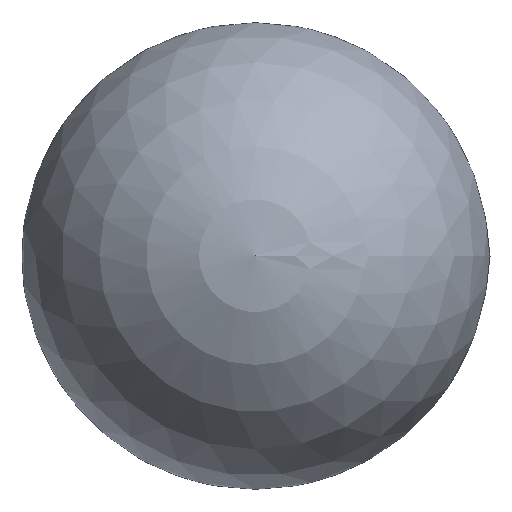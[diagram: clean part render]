
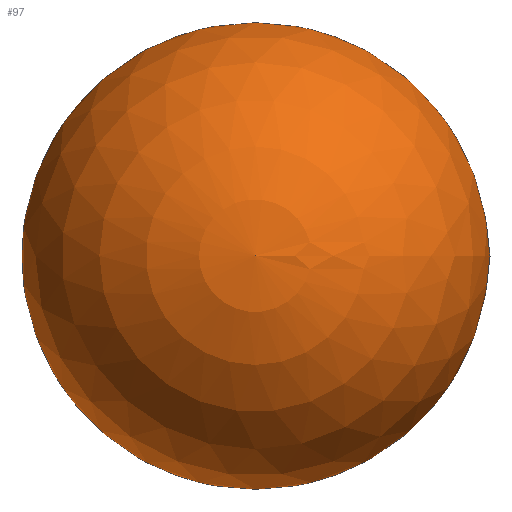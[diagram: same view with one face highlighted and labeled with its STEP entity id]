
A CAD part, top view. The second image highlights one B-rep face of the part: STEP entity #97.
In plain terms, the highlighted spherical face has radius 17 mm.
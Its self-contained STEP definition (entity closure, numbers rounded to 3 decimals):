
#59=CARTESIAN_POINT('',(16.873,0.,50.928));
#60=VERTEX_POINT('',#59);
#67=CARTESIAN_POINT('',(0.,0.,50.928));
#68=DIRECTION('',(1.,0.,0.));
#69=DIRECTION('',(0.,0.,1.));
#70=AXIS2_PLACEMENT_3D('',#67,#69,#68);
#71=CIRCLE('',#70,16.873);
#72=EDGE_CURVE('',#60,#60,#71,.T.);
#79=CARTESIAN_POINT('',(0.,0.,53.));
#80=DIRECTION('',(1.,0.,0.));
#81=DIRECTION('',(0.,0.,1.));
#82=AXIS2_PLACEMENT_3D('',#79,#81,#80);
#83=SPHERICAL_SURFACE('',#82,17.);
#84=CARTESIAN_POINT('',(0.,0.,70.));
#85=VERTEX_POINT('',#84);
#86=CARTESIAN_POINT('',(0.,0.,53.));
#87=DIRECTION('',(0.993,0.,-0.122));
#88=DIRECTION('',(-0.,-1.,0.));
#89=AXIS2_PLACEMENT_3D('',#86,#88,#87);
#90=CIRCLE('',#89,17.);
#91=EDGE_CURVE('',#60,#85,#90,.T.);
#92=ORIENTED_EDGE('E3',*,*,#91,.T.);
#93=ORIENTED_EDGE('E7',*,*,#91,.F.);
#94=ORIENTED_EDGE('E7',*,*,#72,.F.);
#95=EDGE_LOOP('',(#92,#93,#94));
#96=FACE_OUTER_BOUND('',#95,.F.);
#97=ADVANCED_FACE('F4',(#96),#83,.T.);
